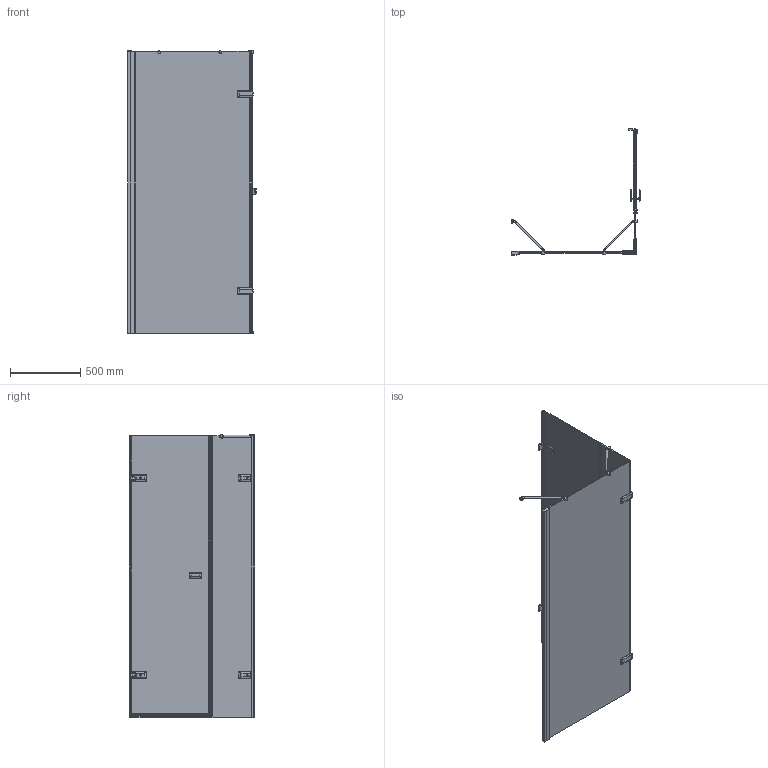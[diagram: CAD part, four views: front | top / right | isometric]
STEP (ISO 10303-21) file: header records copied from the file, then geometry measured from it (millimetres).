
FILE_DESCRIPTION(/* description */ (''),/* implementation_level */ '2;1');
FILE_NAME(/* name */ 'E:\Работа\Сергей\Душевые кабинки\! Работа\TREND SQUARE GK-863CPTWO\TREND SQUARE GK-863CPTWO правая модель\TREND SQUARE GK-863CPTWO ПРАВАЯ-3D.stp',/* time_stamp */ '2017-09-01T18:40:41+03:00',/* author */ ('PC'),/* organization */ (''),/* preprocessor_version */ 'ST-DEVELOPER v15.2',/* originating_system */ 'Autodesk Inventor 2014',/* authorisation */ '');
FILE_SCHEMA (('AUTOMOTIVE_DESIGN { 1 0 10303 214 3 1 1 }'));
Length unit declared in the file: millimetre
Products named in the file (1): TREND SQUARE GK-863CPTWO ПРАВАЯ-
3D
Bounding box: 912.74 x 893.8 x 2009.49 mm (x, y, z)
Volume: 28283250.3 mm3; surface area: 7541299.9 mm2
Topology: 7 solids, 9 shells, 988 faces, 2612 edges, 1593 vertices
Faces by surface type: plane 588, cylinder 271, bspline 78, torus 38, sphere 11, cone 2
Full cylindrical faces by diameter (mm): 12 x2, 15 x2, 20 x4, 26 x1
Entity records: 34387 total; most frequent: CARTESIAN_POINT 9421, ORIENTED_EDGE 5064, DIRECTION 4844, EDGE_CURVE 2532, LINE 1720, VECTOR 1720, VERTEX_POINT 1579, AXIS2_PLACEMENT_3D 1562
